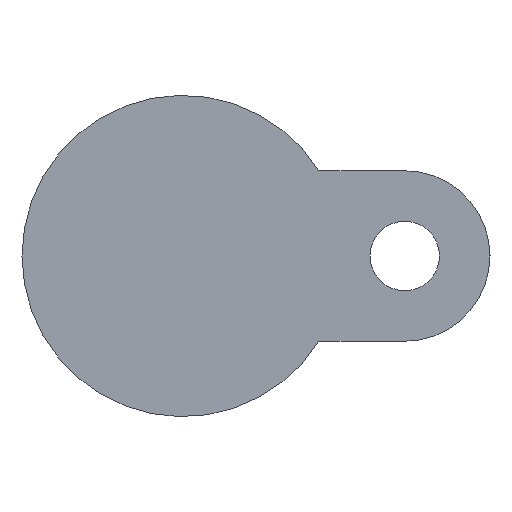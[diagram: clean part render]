
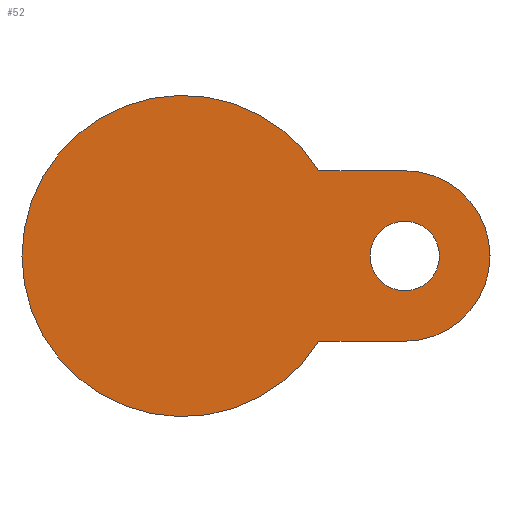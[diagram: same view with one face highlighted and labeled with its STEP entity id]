
A CAD part, front view. The second image highlights one B-rep face of the part: STEP entity #52.
In plain terms, the highlighted planar face has unit normal (0, -1, 0).
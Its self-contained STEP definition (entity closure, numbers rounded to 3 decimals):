
#10 = AXIS2_PLACEMENT_3D ( 'NONE', #937, #578, #918 ) ;
#12 = EDGE_CURVE ( 'NONE', #597, #781, #523, .T. ) ;
#24 = CARTESIAN_POINT ( 'NONE',  ( 56., -23., 0. ) ) ;
#52 = ADVANCED_FACE ( 'NONE', ( #797, #534 ), #340, .T. ) ;
#131 = CARTESIAN_POINT ( 'NONE',  ( 34.322, -23., 21.5 ) ) ;
#165 = VERTEX_POINT ( 'NONE', #1106 ) ;
#269 = EDGE_CURVE ( 'NONE', #165, #707, #872, .T. ) ;
#324 = VERTEX_POINT ( 'NONE', #1024 ) ;
#338 = CARTESIAN_POINT ( 'NONE',  ( 30.5, -23., -21.5 ) ) ;
#340 = PLANE ( 'NONE',  #345 ) ;
#345 = AXIS2_PLACEMENT_3D ( 'NONE', #807, #904, #431 ) ;
#354 = ORIENTED_EDGE ( 'NONE', *, *, #1195, .T. ) ;
#367 = AXIS2_PLACEMENT_3D ( 'NONE', #24, #481, #688 ) ;
#380 = CARTESIAN_POINT ( 'NONE',  ( 56., -23., -21.5 ) ) ;
#418 = VERTEX_POINT ( 'NONE', #131 ) ;
#428 = EDGE_CURVE ( 'NONE', #418, #324, #1304, .T. ) ;
#431 = DIRECTION ( 'NONE',  ( 1., 0., 0. ) ) ;
#446 = DIRECTION ( 'NONE',  ( 1., 0., 0. ) ) ;
#460 = DIRECTION ( 'NONE',  ( -1., 0., 0. ) ) ;
#481 = DIRECTION ( 'NONE',  ( 0., 1., 0. ) ) ;
#493 = ORIENTED_EDGE ( 'NONE', *, *, #428, .T. ) ;
#501 = AXIS2_PLACEMENT_3D ( 'NONE', #841, #847, #1301 ) ;
#523 = CIRCLE ( 'NONE', #367, 8.75 ) ;
#534 = FACE_OUTER_BOUND ( 'NONE', #1100, .T. ) ;
#551 = LINE ( 'NONE', #338, #583 ) ;
#560 = AXIS2_PLACEMENT_3D ( 'NONE', #1435, #634, #875 ) ;
#572 = LINE ( 'NONE', #782, #624 ) ;
#578 = DIRECTION ( 'NONE',  ( 0., -1., 0. ) ) ;
#583 = VECTOR ( 'NONE', #460, 1000. ) ;
#597 = VERTEX_POINT ( 'NONE', #799 ) ;
#624 = VECTOR ( 'NONE', #446, 1000. ) ;
#634 = DIRECTION ( 'NONE',  ( 0., 1., 0. ) ) ;
#636 = ORIENTED_EDGE ( 'NONE', *, *, #938, .F. ) ;
#653 = CARTESIAN_POINT ( 'NONE',  ( 64.75, -23., 0. ) ) ;
#688 = DIRECTION ( 'NONE',  ( -1., 0., 0. ) ) ;
#707 = VERTEX_POINT ( 'NONE', #380 ) ;
#781 = VERTEX_POINT ( 'NONE', #653 ) ;
#782 = CARTESIAN_POINT ( 'NONE',  ( 30.5, -23., 21.5 ) ) ;
#797 = FACE_BOUND ( 'NONE', #994, .T. ) ;
#799 = CARTESIAN_POINT ( 'NONE',  ( 47.25, -23., 0. ) ) ;
#807 = CARTESIAN_POINT ( 'NONE',  ( 40.5, -23., 0. ) ) ;
#841 = CARTESIAN_POINT ( 'NONE',  ( 56., -23., 0. ) ) ;
#842 = ORIENTED_EDGE ( 'NONE', *, *, #1030, .F. ) ;
#847 = DIRECTION ( 'NONE',  ( 0., 1., 0. ) ) ;
#868 = CIRCLE ( 'NONE', #501, 8.75 ) ;
#872 = CIRCLE ( 'NONE', #560, 21.5 ) ;
#875 = DIRECTION ( 'NONE',  ( 1., 0., 0. ) ) ;
#904 = DIRECTION ( 'NONE',  ( 0., -1., 0. ) ) ;
#918 = DIRECTION ( 'NONE',  ( 1., 0., 0. ) ) ;
#937 = CARTESIAN_POINT ( 'NONE',  ( 0., -23., 0. ) ) ;
#938 = EDGE_CURVE ( 'NONE', #707, #324, #551, .T. ) ;
#994 = EDGE_LOOP ( 'NONE', ( #1108, #354 ) ) ;
#1024 = CARTESIAN_POINT ( 'NONE',  ( 34.322, -23., -21.5 ) ) ;
#1030 = EDGE_CURVE ( 'NONE', #418, #165, #572, .T. ) ;
#1100 = EDGE_LOOP ( 'NONE', ( #493, #636, #1460, #842 ) ) ;
#1106 = CARTESIAN_POINT ( 'NONE',  ( 56., -23., 21.5 ) ) ;
#1108 = ORIENTED_EDGE ( 'NONE', *, *, #12, .T. ) ;
#1195 = EDGE_CURVE ( 'NONE', #781, #597, #868, .T. ) ;
#1301 = DIRECTION ( 'NONE',  ( -1., 0., 0. ) ) ;
#1304 = CIRCLE ( 'NONE', #10, 40.5 ) ;
#1435 = CARTESIAN_POINT ( 'NONE',  ( 56., -23., 0. ) ) ;
#1460 = ORIENTED_EDGE ( 'NONE', *, *, #269, .F. ) ;
